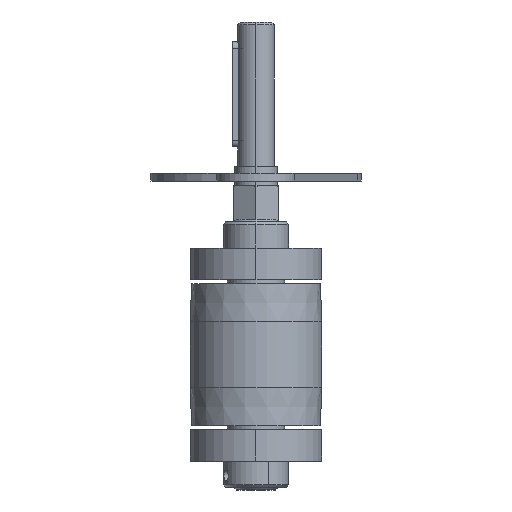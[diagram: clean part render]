
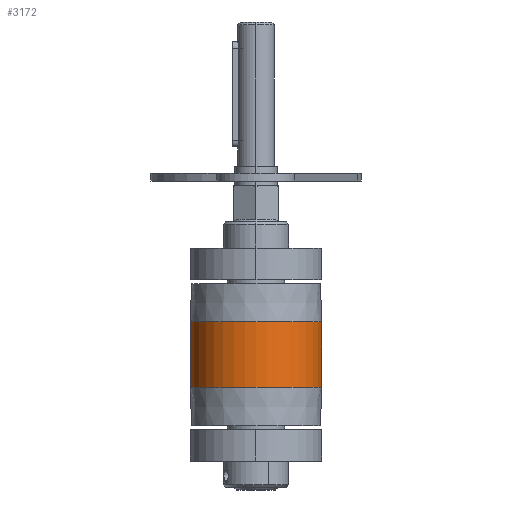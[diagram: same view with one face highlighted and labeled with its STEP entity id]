
A CAD part, left-side view. The second image highlights one B-rep face of the part: STEP entity #3172.
In plain terms, the highlighted cylindrical face has radius 25 mm (diameter 50 mm), a partial arc.
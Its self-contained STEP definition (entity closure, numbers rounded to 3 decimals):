
#55 = DIRECTION ( 'NONE',  ( 0., -1., 0. ) ) ;
#99 = CARTESIAN_POINT ( 'NONE',  ( 64., 0., 0. ) ) ;
#343 = VERTEX_POINT ( 'NONE', #8014 ) ;
#419 = CARTESIAN_POINT ( 'NONE',  ( 0., -25., 0. ) ) ;
#490 = ORIENTED_EDGE ( 'NONE', *, *, #4359, .T. ) ;
#644 = CIRCLE ( 'NONE', #7264, 25. ) ;
#992 = DIRECTION ( 'NONE',  ( 0., -1., 0. ) ) ;
#1106 = EDGE_CURVE ( 'NONE', #7204, #1392, #7599, .T. ) ;
#1316 = DIRECTION ( 'NONE',  ( -1., 0., 0. ) ) ;
#1392 = VERTEX_POINT ( 'NONE', #7474 ) ;
#1864 = CIRCLE ( 'NONE', #4152, 25. ) ;
#3172 = ADVANCED_FACE ( 'NONE', ( #6772 ), #4627, .T. ) ;
#3185 = EDGE_CURVE ( 'NONE', #7204, #6422, #1864, .T. ) ;
#4152 = AXIS2_PLACEMENT_3D ( 'NONE', #99, #6511, #992 ) ;
#4359 = EDGE_CURVE ( 'NONE', #6422, #343, #10664, .T. ) ;
#4372 = CARTESIAN_POINT ( 'NONE',  ( 39., 0., 0. ) ) ;
#4578 = CARTESIAN_POINT ( 'NONE',  ( 64., 25., 0. ) ) ;
#4589 = ORIENTED_EDGE ( 'NONE', *, *, #7054, .F. ) ;
#4627 = CYLINDRICAL_SURFACE ( 'NONE', #4786, 25. ) ;
#4786 = AXIS2_PLACEMENT_3D ( 'NONE', #6470, #7397, #55 ) ;
#5309 = DIRECTION ( 'NONE',  ( 0., -1., 0. ) ) ;
#6422 = VERTEX_POINT ( 'NONE', #10812 ) ;
#6470 = CARTESIAN_POINT ( 'NONE',  ( 0., 0., 0. ) ) ;
#6511 = DIRECTION ( 'NONE',  ( -1., 0., 0. ) ) ;
#6772 = FACE_OUTER_BOUND ( 'NONE', #9805, .T. ) ;
#6788 = ORIENTED_EDGE ( 'NONE', *, *, #3185, .T. ) ;
#7054 = EDGE_CURVE ( 'NONE', #1392, #343, #644, .T. ) ;
#7204 = VERTEX_POINT ( 'NONE', #4578 ) ;
#7264 = AXIS2_PLACEMENT_3D ( 'NONE', #4372, #10841, #5309 ) ;
#7397 = DIRECTION ( 'NONE',  ( -1., 0., 0. ) ) ;
#7429 = ORIENTED_EDGE ( 'NONE', *, *, #1106, .F. ) ;
#7474 = CARTESIAN_POINT ( 'NONE',  ( 39., 25., 0. ) ) ;
#7599 = LINE ( 'NONE', #7646, #10087 ) ;
#7646 = CARTESIAN_POINT ( 'NONE',  ( 0., 25., 0. ) ) ;
#8014 = CARTESIAN_POINT ( 'NONE',  ( 39., -25., 0. ) ) ;
#8215 = VECTOR ( 'NONE', #1316, 1000. ) ;
#9805 = EDGE_LOOP ( 'NONE', ( #7429, #6788, #490, #4589 ) ) ;
#10087 = VECTOR ( 'NONE', #10439, 1000. ) ;
#10439 = DIRECTION ( 'NONE',  ( -1., 0., 0. ) ) ;
#10664 = LINE ( 'NONE', #419, #8215 ) ;
#10812 = CARTESIAN_POINT ( 'NONE',  ( 64., -25., 0. ) ) ;
#10841 = DIRECTION ( 'NONE',  ( -1., 0., 0. ) ) ;
